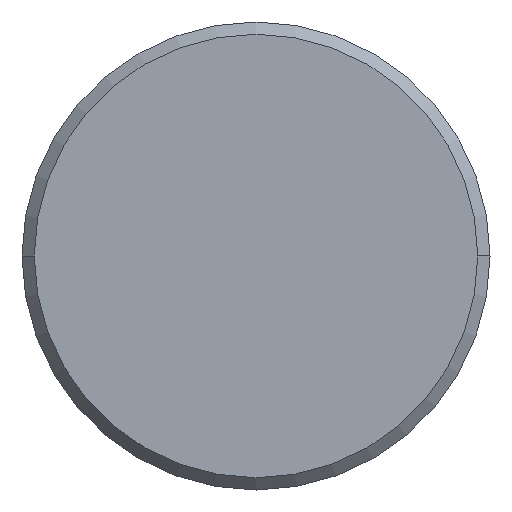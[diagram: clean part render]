
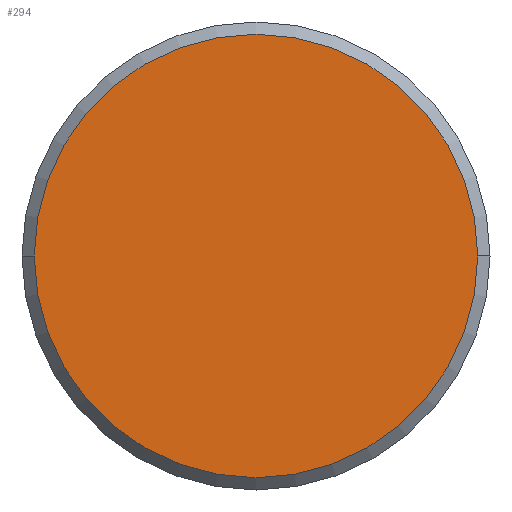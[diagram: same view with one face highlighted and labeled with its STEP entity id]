
A CAD part, left-side view. The second image highlights one B-rep face of the part: STEP entity #294.
In plain terms, the highlighted planar face has unit normal (-1, 0, 0).
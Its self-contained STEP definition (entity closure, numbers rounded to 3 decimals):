
#11 = AXIS2_PLACEMENT_3D ( 'NONE', #68, #29, #105 ) ;
#22 = DIRECTION ( 'NONE',  ( 0., 1., 0. ) ) ;
#25 = CARTESIAN_POINT ( 'NONE',  ( -59.325, 0., 0. ) ) ;
#29 = DIRECTION ( 'NONE',  ( -1., 0., 0. ) ) ;
#31 = PLANE ( 'NONE',  #11 ) ;
#41 = EDGE_LOOP ( 'NONE', ( #272, #399 ) ) ;
#43 = DIRECTION ( 'NONE',  ( 1., 0., 0. ) ) ;
#49 = CIRCLE ( 'NONE', #432, 9.025 ) ;
#68 = CARTESIAN_POINT ( 'NONE',  ( -59.325, 0., 0. ) ) ;
#105 = DIRECTION ( 'NONE',  ( 0., -1., 0. ) ) ;
#154 = EDGE_CURVE ( 'NONE', #231, #196, #335, .T. ) ;
#181 = EDGE_CURVE ( 'NONE', #196, #231, #49, .T. ) ;
#196 = VERTEX_POINT ( 'NONE', #427 ) ;
#231 = VERTEX_POINT ( 'NONE', #241 ) ;
#234 = DIRECTION ( 'NONE',  ( 1., 0., 0. ) ) ;
#241 = CARTESIAN_POINT ( 'NONE',  ( -59.325, 9.025, 0. ) ) ;
#272 = ORIENTED_EDGE ( 'NONE', *, *, #154, .F. ) ;
#294 = ADVANCED_FACE ( 'NONE', ( #384 ), #31, .T. ) ;
#323 = AXIS2_PLACEMENT_3D ( 'NONE', #423, #234, #22 ) ;
#335 = CIRCLE ( 'NONE', #323, 9.025 ) ;
#379 = DIRECTION ( 'NONE',  ( 0., 1., 0. ) ) ;
#384 = FACE_OUTER_BOUND ( 'NONE', #41, .T. ) ;
#399 = ORIENTED_EDGE ( 'NONE', *, *, #181, .F. ) ;
#423 = CARTESIAN_POINT ( 'NONE',  ( -59.325, 0., 0. ) ) ;
#427 = CARTESIAN_POINT ( 'NONE',  ( -59.325, -9.025, 0. ) ) ;
#432 = AXIS2_PLACEMENT_3D ( 'NONE', #25, #43, #379 ) ;
